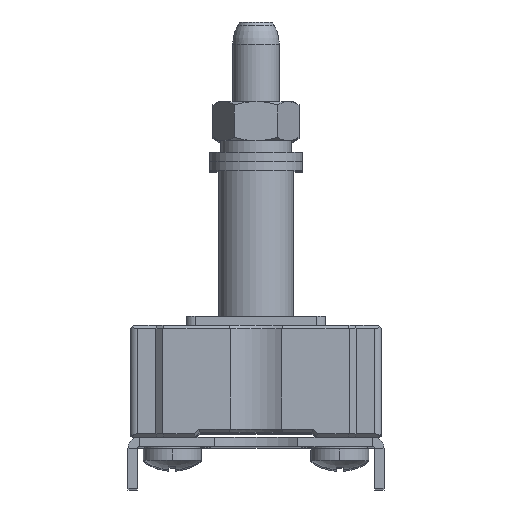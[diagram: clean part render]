
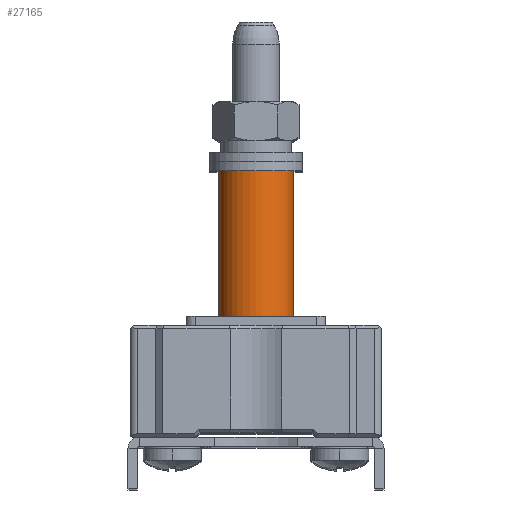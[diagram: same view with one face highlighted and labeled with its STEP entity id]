
A CAD part, top view. The second image highlights one B-rep face of the part: STEP entity #27165.
In plain terms, the highlighted cylindrical face has radius 8 mm (diameter 16 mm), a partial arc.
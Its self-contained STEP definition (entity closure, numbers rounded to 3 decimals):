
#5109 = CIRCLE ( 'NONE', #5173, 8. ) ;
#5110 = CARTESIAN_POINT ( 'NONE',  ( 4., 26., 91.928 ) ) ;
#5111 = DIRECTION ( 'NONE',  ( 0., -1., 0. ) ) ;
#5112 = VECTOR ( 'NONE', #5111, 1000. ) ;
#5113 = CARTESIAN_POINT ( 'NONE',  ( 4., 26., 91.928 ) ) ;
#5114 = LINE ( 'NONE', #5113, #5112 ) ;
#5115 = DIRECTION ( 'NONE',  ( -1., 0., 0. ) ) ;
#5116 = DIRECTION ( 'NONE',  ( 0., 1., 0. ) ) ;
#5117 = CARTESIAN_POINT ( 'NONE',  ( 0., 24.5, 85. ) ) ;
#5118 = AXIS2_PLACEMENT_3D ( 'NONE', #5117, #5116, #5115 ) ;
#5119 = CIRCLE ( 'NONE', #5118, 8. ) ;
#5120 = CARTESIAN_POINT ( 'NONE',  ( 4., 24.5, 91.928 ) ) ;
#5121 = CARTESIAN_POINT ( 'NONE',  ( -4., 24.5, 91.928 ) ) ;
#5122 = DIRECTION ( 'NONE',  ( 0., -1., 0. ) ) ;
#5123 = VECTOR ( 'NONE', #5122, 1000. ) ;
#5124 = CARTESIAN_POINT ( 'NONE',  ( -4., 26., 91.928 ) ) ;
#5125 = LINE ( 'NONE', #5124, #5123 ) ;
#5126 = CARTESIAN_POINT ( 'NONE',  ( -4., 26., 91.928 ) ) ;
#5127 = DIRECTION ( 'NONE',  ( -1., 0., 0. ) ) ;
#5128 = DIRECTION ( 'NONE',  ( 0., -1., 0. ) ) ;
#5129 = CARTESIAN_POINT ( 'NONE',  ( 0., 26., 85. ) ) ;
#5130 = AXIS2_PLACEMENT_3D ( 'NONE', #5129, #5128, #5127 ) ;
#5131 = CIRCLE ( 'NONE', #5130, 8. ) ;
#5148 = DIRECTION ( 'NONE',  ( 0., -1., 0. ) ) ;
#5149 = VECTOR ( 'NONE', #5148, 1000. ) ;
#5150 = CARTESIAN_POINT ( 'NONE',  ( -8., 57.2, 85. ) ) ;
#5151 = LINE ( 'NONE', #5150, #5149 ) ;
#5153 = CARTESIAN_POINT ( 'NONE',  ( -8., 26., 85. ) ) ;
#5170 = DIRECTION ( 'NONE',  ( -1., 0., 0. ) ) ;
#5171 = DIRECTION ( 'NONE',  ( 0., -1., 0. ) ) ;
#5172 = CARTESIAN_POINT ( 'NONE',  ( 0., 26., 85. ) ) ;
#5173 = AXIS2_PLACEMENT_3D ( 'NONE', #5172, #5171, #5170 ) ;
#5179 = CARTESIAN_POINT ( 'NONE',  ( 8., 26., 85. ) ) ;
#5180 = DIRECTION ( 'NONE',  ( 0., -1., 0. ) ) ;
#5181 = VECTOR ( 'NONE', #5180, 1000. ) ;
#5182 = CARTESIAN_POINT ( 'NONE',  ( 8., 57.2, 85. ) ) ;
#5183 = LINE ( 'NONE', #5182, #5181 ) ;
#5184 = DIRECTION ( 'NONE',  ( -1., 0., 0. ) ) ;
#5185 = DIRECTION ( 'NONE',  ( 0., -1., 0. ) ) ;
#5186 = AXIS2_PLACEMENT_3D ( 'NONE', #5192, #5185, #5184 ) ;
#5187 = CIRCLE ( 'NONE', #5186, 8. ) ;
#5192 = CARTESIAN_POINT ( 'NONE',  ( 0., 57.2, 85. ) ) ;
#5218 = CARTESIAN_POINT ( 'NONE',  ( 8., 57.2, 85. ) ) ;
#5219 = CARTESIAN_POINT ( 'NONE',  ( -8., 57.2, 85. ) ) ;
#5432 = DIRECTION ( 'NONE',  ( -1., 0., 0. ) ) ;
#5433 = DIRECTION ( 'NONE',  ( 0., -1., 0. ) ) ;
#5434 = AXIS2_PLACEMENT_3D ( 'NONE', #5438, #5433, #5432 ) ;
#5435 = CYLINDRICAL_SURFACE ( 'NONE', #5434, 8. ) ;
#5438 = CARTESIAN_POINT ( 'NONE',  ( 0., 57.2, 85. ) ) ;
#5453 = FACE_OUTER_BOUND ( 'NONE', #27166, .T. ) ;
#27059 = ORIENTED_EDGE ( 'NONE', *, *, #27060, .F. ) ;
#27060 = EDGE_CURVE ( 'NONE', #27061, #27081, #5131, .T. ) ;
#27061 = VERTEX_POINT ( 'NONE', #5126 ) ;
#27062 = ORIENTED_EDGE ( 'NONE', *, *, #27063, .T. ) ;
#27063 = EDGE_CURVE ( 'NONE', #27061, #27064, #5125, .T. ) ;
#27064 = VERTEX_POINT ( 'NONE', #5121 ) ;
#27065 = ORIENTED_EDGE ( 'NONE', *, *, #27066, .T. ) ;
#27066 = EDGE_CURVE ( 'NONE', #27064, #27067, #5119, .T. ) ;
#27067 = VERTEX_POINT ( 'NONE', #5120 ) ;
#27068 = ORIENTED_EDGE ( 'NONE', *, *, #27069, .F. ) ;
#27069 = EDGE_CURVE ( 'NONE', #27070, #27067, #5114, .T. ) ;
#27070 = VERTEX_POINT ( 'NONE', #5110 ) ;
#27071 = ORIENTED_EDGE ( 'NONE', *, *, #27072, .F. ) ;
#27072 = EDGE_CURVE ( 'NONE', #27094, #27070, #5109, .T. ) ;
#27081 = VERTEX_POINT ( 'NONE', #5153 ) ;
#27083 = EDGE_CURVE ( 'NONE', #27104, #27081, #5151, .T. ) ;
#27090 = EDGE_CURVE ( 'NONE', #27105, #27104, #5187, .T. ) ;
#27091 = ORIENTED_EDGE ( 'NONE', *, *, #27083, .T. ) ;
#27093 = EDGE_CURVE ( 'NONE', #27105, #27094, #5183, .T. ) ;
#27094 = VERTEX_POINT ( 'NONE', #5179 ) ;
#27104 = VERTEX_POINT ( 'NONE', #5219 ) ;
#27105 = VERTEX_POINT ( 'NONE', #5218 ) ;
#27165 = ADVANCED_FACE ( 'NONE', ( #5453 ), #5435, .T. ) ;
#27166 = EDGE_LOOP ( 'NONE', ( #27167, #27168, #27091, #27059, #27062, #27065, #27068, #27071 ) ) ;
#27167 = ORIENTED_EDGE ( 'NONE', *, *, #27093, .F. ) ;
#27168 = ORIENTED_EDGE ( 'NONE', *, *, #27090, .T. ) ;
